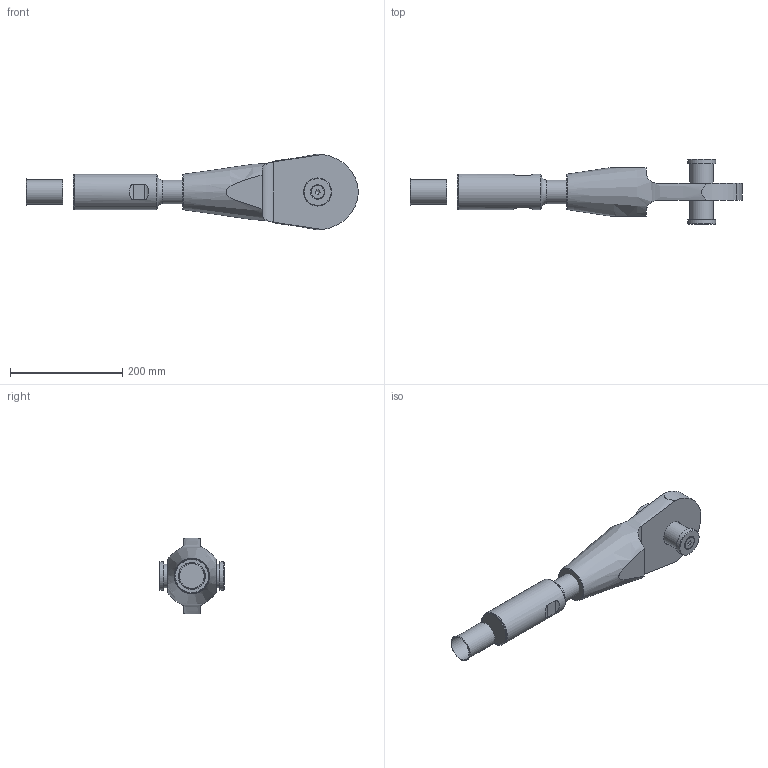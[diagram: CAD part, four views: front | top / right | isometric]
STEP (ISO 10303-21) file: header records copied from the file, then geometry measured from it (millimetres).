
FILE_DESCRIPTION(/* description */ (''),/* implementation_level */ '2;1');
FILE_NAME(/* name */ 'C:\Vault_WS\Designs\SB\01-PX\Verzinkt\ZSS\520 - Zusambau-OES-ADA\520-042-OES-ADA.stp',/* time_stamp */ '2020-10-07T15:38:43+02:00',/* author */ ('schwarz'),/* organization */ (''),/* preprocessor_version */ 'ST-DEVELOPER v18.1',/* originating_system */ 'Autodesk Inventor 2020',/* authorisation */ '');
FILE_SCHEMA (('AUTOMOTIVE_DESIGN { 1 0 10303 214 3 1 1 }'));
Length unit declared in the file: millimetre
Products named in the file (1): 520-042-OES-ADA-Kunde
Bounding box: 590.78 x 116.44 x 134.74 mm (x, y, z)
Volume: 2255626 mm3; surface area: 202415.3 mm2
Topology: 6 solids, 6 shells, 63 faces, 152 edges, 106 vertices
Faces by surface type: plane 28, cylinder 20, cone 13, torus 2
Full cylindrical faces by diameter (mm): 10.106 x1, 12 x1, 13.5 x1, 23.12 x1, 42 x2, 44 x1, 45 x1, 50 x2, 63 x1
Entity records: 2205 total; most frequent: CARTESIAN_POINT 580, DIRECTION 316, ORIENTED_EDGE 300, EDGE_CURVE 150, AXIS2_PLACEMENT_3D 132, VERTEX_POINT 106, EDGE_LOOP 74, STYLED_ITEM 69
